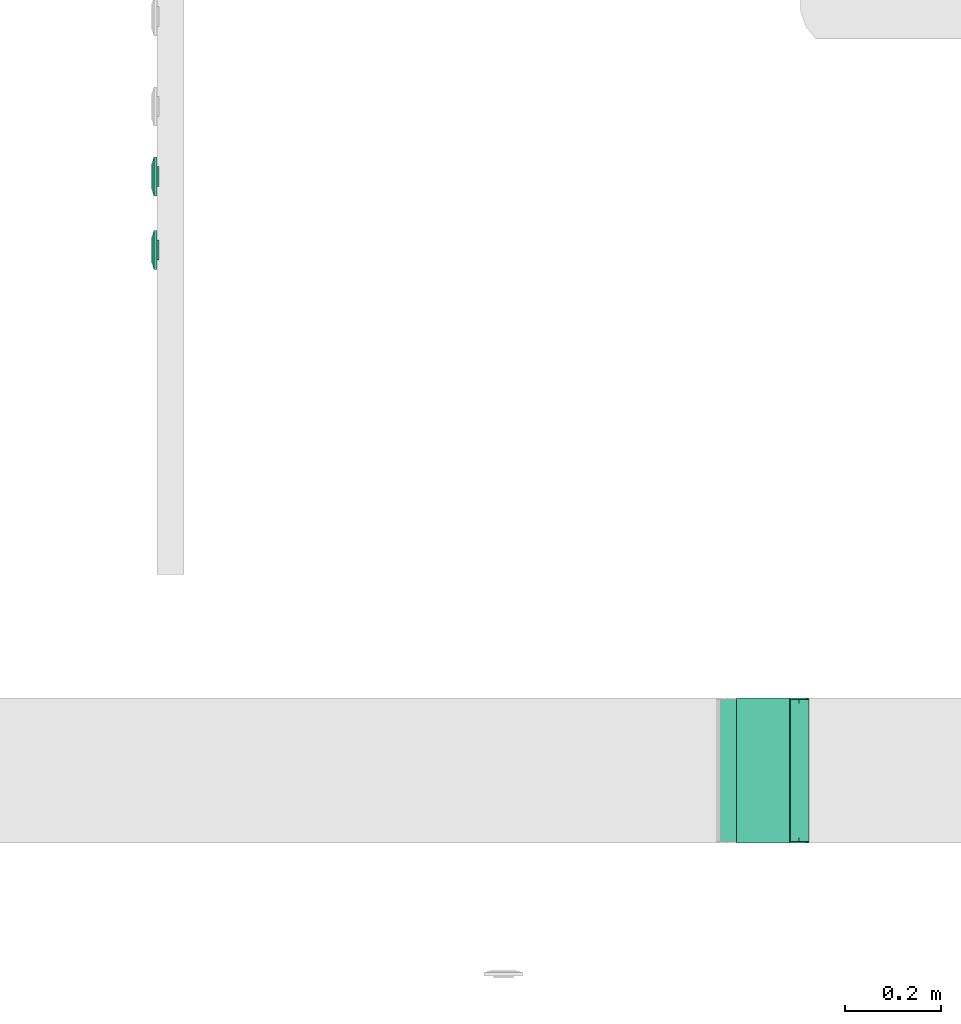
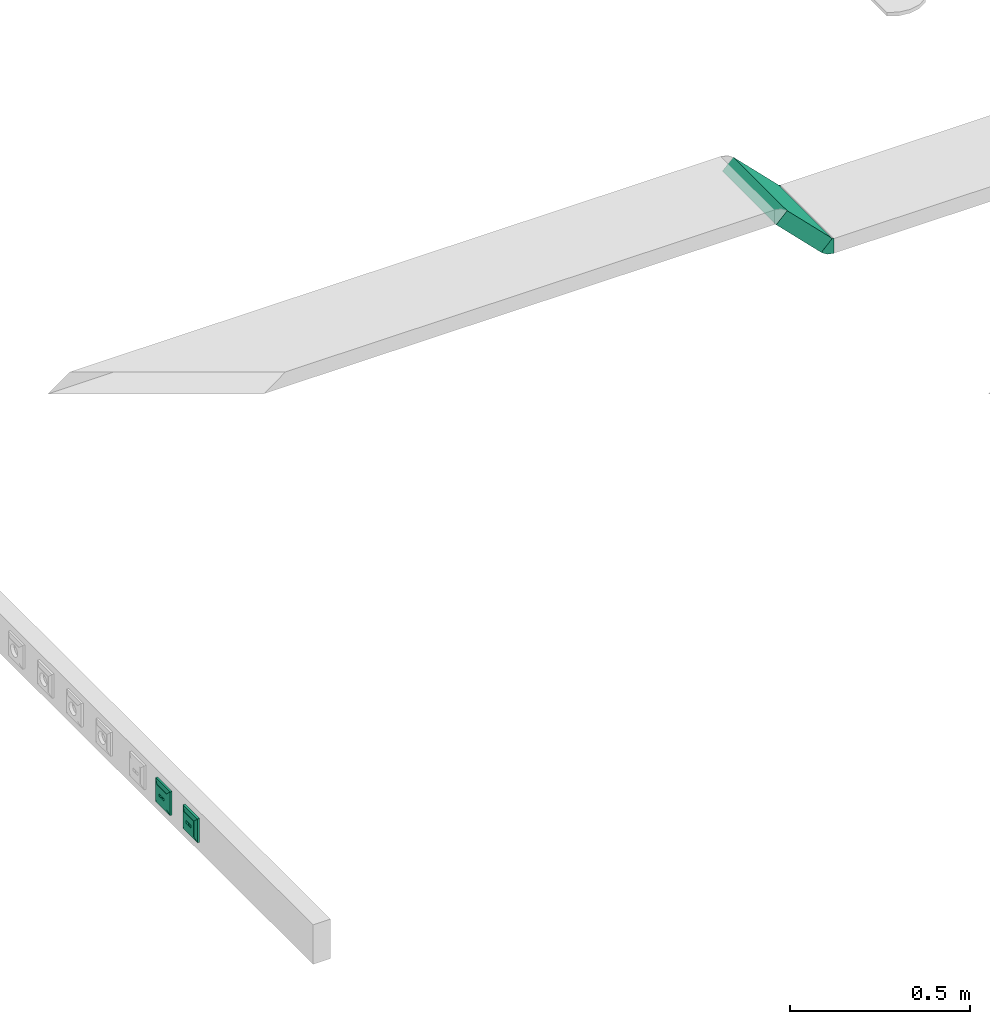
# One storey, part 34 of 166: 2 flow terminals, 1 flow fitting, 1 flow segment.
"""IFC2X3 building model written with IfcOpenShell, lengths in metres."""

from ifc_helpers import new_model, entity, si_unit, converted_unit, derived_unit, direction, frame, frame_2d, origin, place, context, subcontext, project, spatial, rectangle, extrude, faceted_brep, source, transform, mapped, type_object, type_shapes, element, save


model = new_model("IFC2X3")

# Units and contexts
model_context = context("Model", 3, precision=1e-05, world=origin(), true_north=direction((6.12303176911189e-17, 1.0)))
body_context = subcontext(model_context, "Body", "Model", "MODEL_VIEW")
ifc_project = project(units=[si_unit("LENGTHUNIT", "METRE"), si_unit("AREAUNIT", "SQUARE_METRE"), si_unit("VOLUMEUNIT", "CUBIC_METRE"), converted_unit("PLANEANGLEUNIT", "DEGREE", entity("IfcRatioMeasure", 0.0174532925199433), si_unit("PLANEANGLEUNIT", "RADIAN"), dimensions=[0, 0, 0, 0, 0, 0, 0]), si_unit("MASSUNIT", "GRAM", prefix="KILO"), derived_unit("MASSDENSITYUNIT", [(si_unit("MASSUNIT", "GRAM", prefix="KILO"), 1), (si_unit("LENGTHUNIT", "METRE"), -3)]), si_unit("TIMEUNIT", "SECOND"), si_unit("FREQUENCYUNIT", "HERTZ"), si_unit("THERMODYNAMICTEMPERATUREUNIT", "DEGREE_CELSIUS"), derived_unit("THERMALTRANSMITTANCEUNIT", [(si_unit("MASSUNIT", "GRAM", prefix="KILO"), 1), (si_unit("THERMODYNAMICTEMPERATUREUNIT", "KELVIN"), -1), (si_unit("TIMEUNIT", "SECOND"), -3)]), derived_unit("VOLUMETRICFLOWRATEUNIT", [(si_unit("LENGTHUNIT", "METRE"), 3), (si_unit("TIMEUNIT", "SECOND"), -1)]), si_unit("ELECTRICCURRENTUNIT", "AMPERE"), si_unit("ELECTRICVOLTAGEUNIT", "VOLT"), si_unit("POWERUNIT", "WATT"), si_unit("FORCEUNIT", "NEWTON"), si_unit("ILLUMINANCEUNIT", "LUX"), si_unit("LUMINOUSFLUXUNIT", "LUMEN"), si_unit("LUMINOUSINTENSITYUNIT", "CANDELA"), derived_unit("USERDEFINED", [(si_unit("MASSUNIT", "GRAM", prefix="KILO"), -1), (si_unit("LENGTHUNIT", "METRE"), -2), (si_unit("TIMEUNIT", "SECOND"), 3), (si_unit("LUMINOUSFLUXUNIT", "LUMEN"), 1)]), derived_unit("LINEARVELOCITYUNIT", [(si_unit("LENGTHUNIT", "METRE"), 1), (si_unit("TIMEUNIT", "SECOND"), -1)]), si_unit("PRESSUREUNIT", "PASCAL"), derived_unit("USERDEFINED", [(si_unit("LENGTHUNIT", "METRE"), -2), (si_unit("MASSUNIT", "GRAM", prefix="KILO"), 1), (si_unit("TIMEUNIT", "SECOND"), -2)])], contexts=[model_context])

# Site, building, storey
site_placement = place(None, origin())
site = spatial("IfcSite", under=ifc_project, at=site_placement, Name="Default", CompositionType="ELEMENT")
building_placement = place(site_placement, origin())
building = spatial("IfcBuilding", under=site, at=building_placement, CompositionType="ELEMENT")
storey_placement = place(building_placement, frame((0.0, 0.0, 4.27)))
storey = spatial("IfcBuildingStorey", under=building, at=storey_placement, Name="01", CompositionType="ELEMENT", Elevation=4.27)

# Flow terminals
electric_appliance_type = type_object("IfcElectricApplianceType", Name="RJ45 IP20", PredefinedType="NOTDEFINED")
shared_shape_1 = source(origin(), body_context, "Body", "Brep", [
    faceted_brep([(0.00200000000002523, 0.0, 0.00799999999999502), (0.00400000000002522, 0.0, 0.00799999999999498), (0.00500000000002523, 0.00199999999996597, 0.00799999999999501), (0.0110000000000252, 0.00199999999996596, 0.00799999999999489), (0.0120000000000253, 0.0, 0.00799999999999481), (0.0140000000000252, 0.0, 0.00799999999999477), (0.0140000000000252, 0.00399999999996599, 0.00799999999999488), (0.00200000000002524, 0.00399999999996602, 0.00799999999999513), (0.00200000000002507, 0.0, 0.0), (0.00200000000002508, 0.00399999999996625, 0.0), (0.0140000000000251, 0.00399999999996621, 0.0), (0.0140000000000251, 0.0, 0.0), (0.0120000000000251, 0.0, 0.0), (0.0110000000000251, 0.00199999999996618, 0.0), (0.00500000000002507, 0.0019999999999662, 0.0), (0.00400000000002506, 0.0, 0.0)], [[[0, 1, 2, 3, 4, 5, 6, 7]], [[8, 9, 10, 11, 12, 13, 14, 15]], [[1, 0, 8, 15]], [[2, 1, 15, 14]], [[3, 2, 14, 13]], [[4, 3, 13, 12]], [[5, 4, 12, 11]], [[6, 5, 11, 10]], [[7, 6, 10, 9]], [[0, 7, 9, 8]]]),
    faceted_brep([(-0.0139999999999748, 0.0, 0.00799999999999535), (-0.0119999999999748, 0.0, 0.00799999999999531), (-0.0109999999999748, 0.00199999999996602, 0.00799999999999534), (-0.00499999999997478, 0.00199999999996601, 0.00799999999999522), (-0.0039999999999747, 0.0, 0.00799999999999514), (-0.00199999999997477, 0.0, 0.0079999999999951), (-0.00199999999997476, 0.00399999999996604, 0.00799999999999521), (-0.0139999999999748, 0.00399999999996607, 0.00799999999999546), (-0.0139999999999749, 0.0, 0.0), (-0.0139999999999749, 0.00399999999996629, 0.0), (-0.00199999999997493, 0.00399999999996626, 0.0), (-0.00199999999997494, 0.0, 0.0), (-0.00399999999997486, 0.0, 0.0), (-0.00499999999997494, 0.00199999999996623, 0.0), (-0.0109999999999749, 0.00199999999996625, 0.0), (-0.0119999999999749, 0.0, 0.0)], [[[0, 1, 2, 3, 4, 5, 6, 7]], [[8, 9, 10, 11, 12, 13, 14, 15]], [[1, 0, 8, 15]], [[2, 1, 15, 14]], [[3, 2, 14, 13]], [[4, 3, 13, 12]], [[5, 4, 12, 11]], [[6, 5, 11, 10]], [[7, 6, 10, 9]], [[0, 7, 9, 8]]]),
    faceted_brep([(0.0140000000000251, 0.00399999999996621, 0.0), (0.00200000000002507, 0.00399999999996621, 0.0), (0.00200000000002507, -0.00350000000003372, 0.0), (0.0140000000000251, -0.00350000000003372, 0.0), (0.0140000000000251, 0.00399999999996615, 0.00199999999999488), (0.00200000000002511, 0.00399999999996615, 0.00199999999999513), (0.00200000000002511, -0.00393859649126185, 0.00199999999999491), (0.0140000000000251, -0.00393859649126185, 0.00199999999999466), (0.0210000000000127, 0.0209999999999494, 0.00199999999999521), (-0.0209999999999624, 0.0209999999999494, 0.00199999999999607), (-0.0209999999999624, -0.0210000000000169, 0.00199999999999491), (0.0210000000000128, -0.0210000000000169, 0.00199999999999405), (-0.0139999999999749, 0.0039999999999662, 0.00199999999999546), (-0.0019999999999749, 0.0039999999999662, 0.00199999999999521), (-0.00199999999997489, -0.0039385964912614, 0.00199999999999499), (-0.0139999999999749, -0.00393859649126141, 0.00199999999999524), (0.0210000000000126, 0.0209999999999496, -0.00460000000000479), (0.0210000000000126, -0.0210000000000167, -0.00460000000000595), (-0.0209999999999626, -0.0210000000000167, -0.00460000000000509), (-0.0209999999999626, 0.0209999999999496, -0.00460000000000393), (-0.00199999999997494, 0.00399999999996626, 0.0), (-0.0139999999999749, 0.00399999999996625, 0.0), (-0.0139999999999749, -0.00350000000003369, 0.0), (-0.00199999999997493, -0.00350000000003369, 0.0)], [[[0, 1, 2, 3]], [[1, 0, 4, 5]], [[2, 1, 5, 6]], [[3, 2, 6, 7]], [[0, 3, 7, 4]], [[5, 4, 7, 6], [8, 9, 10, 11], [12, 13, 14, 15]], [[16, 17, 18, 19]], [[9, 8, 16, 19]], [[10, 9, 19, 18]], [[11, 10, 18, 17]], [[8, 11, 17, 16]], [[20, 21, 22, 23]], [[21, 20, 13, 12]], [[22, 21, 12, 15]], [[23, 22, 15, 14]], [[20, 23, 14, 13]]], outer=[[True], [True], [True], [True], [True], [False, True, False], [True], [True], [True], [True], [True], [True], [True], [True], [True], [True]]),
    faceted_brep([(0.0270000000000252, 0.026999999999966, 0.0113999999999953), (-0.0269999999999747, 0.026999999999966, 0.0113999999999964), (-0.0269999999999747, -0.0270000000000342, 0.0113999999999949), (0.0270000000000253, -0.0270000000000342, 0.0113999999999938), (0.0020000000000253, 0.00399999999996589, 0.0113999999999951), (0.0140000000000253, 0.00399999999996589, 0.0113999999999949), (0.0140000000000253, -0.00600000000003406, 0.0113999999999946), (0.0020000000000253, -0.00600000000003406, 0.0113999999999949), (-0.0139999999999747, 0.00399999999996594, 0.0113999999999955), (-0.00199999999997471, 0.00399999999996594, 0.0113999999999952), (-0.00199999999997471, -0.0060000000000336, 0.0113999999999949), (-0.0139999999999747, -0.00600000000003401, 0.0113999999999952), (0.0270000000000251, 0.0269999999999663, 0.00199999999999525), (0.0270000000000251, -0.0270000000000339, 0.00199999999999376), (-0.0269999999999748, -0.0270000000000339, 0.00199999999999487), (-0.0269999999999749, 0.0269999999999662, 0.00199999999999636), (0.0140000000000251, 0.00399999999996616, 0.00199999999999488), (0.00200000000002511, 0.00399999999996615, 0.00199999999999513), (0.00200000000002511, -0.00393859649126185, 0.00199999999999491), (0.0140000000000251, -0.00393859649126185, 0.00199999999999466), (-0.00199999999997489, 0.0039999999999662, 0.00199999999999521), (-0.0139999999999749, 0.0039999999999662, 0.00199999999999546), (-0.0139999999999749, -0.0039385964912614, 0.00199999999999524), (-0.00199999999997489, -0.0039385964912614, 0.00199999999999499)], [[[0, 1, 2, 3], [4, 5, 6, 7], [8, 9, 10, 11]], [[12, 13, 14, 15], [16, 17, 18, 19], [20, 21, 22, 23]], [[1, 0, 12, 15]], [[2, 1, 15, 14]], [[3, 2, 14, 13]], [[0, 3, 13, 12]], [[4, 17, 16, 5]], [[17, 4, 7, 18]], [[18, 7, 6, 19]], [[5, 16, 19, 6]], [[8, 21, 20, 9]], [[21, 8, 11, 22]], [[22, 11, 10, 23]], [[9, 20, 23, 10]]]),
    faceted_brep([(0.027000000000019, 0.0269999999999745, 0.00659999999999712), (-0.0269999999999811, 0.0269999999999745, 0.00659999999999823), (-0.026999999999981, -0.0270000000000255, 0.00659999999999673), (0.027000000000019, -0.0270000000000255, 0.00659999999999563), (0.040350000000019, 0.0403499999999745, 0.00659999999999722), (0.040350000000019, -0.0403500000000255, 0.00659999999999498), (-0.0403499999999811, -0.0403500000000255, 0.00659999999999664), (-0.0403499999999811, 0.0403499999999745, 0.00659999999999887), (-0.026999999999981, 0.0269999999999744, 0.0103999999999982), (0.027000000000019, 0.0269999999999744, 0.0103999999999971), (-0.026999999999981, -0.0270000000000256, 0.0103999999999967), (0.027000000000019, -0.0270000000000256, 0.0103999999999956)], [[[0, 1, 2, 3], [4, 5, 6, 7]], [[4, 7, 8, 9]], [[7, 6, 10, 8]], [[6, 5, 11, 10]], [[5, 4, 9, 11]], [[0, 9, 8, 1]], [[1, 8, 10, 2]], [[2, 10, 11, 3]], [[9, 0, 3, 11]]], outer=[[False, True], [True], [True], [True], [True], [True], [True], [True], [True]]),
    faceted_brep([(0.040350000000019, 0.0403499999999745, 0.00659999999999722), (-0.0403499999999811, 0.0403499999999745, 0.00659999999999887), (-0.0403499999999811, -0.0403500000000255, 0.00659999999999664), (0.040350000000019, -0.0403500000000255, 0.00659999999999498), (-0.0269999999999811, 0.0269999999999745, 0.00659999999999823), (0.0270000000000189, 0.0269999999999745, 0.00659999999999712), (0.0270000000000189, -0.0270000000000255, 0.00659999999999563), (-0.0269999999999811, -0.0270000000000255, 0.00659999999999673), (0.0403500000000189, 0.0403499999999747, 0.0), (0.0403500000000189, -0.0403500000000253, 0.0), (-0.0403499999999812, -0.0403500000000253, 0.0), (-0.0403499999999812, 0.0403499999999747, 0.0), (0.0270000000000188, 0.0269999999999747, 0.0), (-0.0269999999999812, 0.0269999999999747, 0.0), (-0.0269999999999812, -0.0270000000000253, 0.0), (0.0270000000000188, -0.0270000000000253, 0.0)], [[[0, 1, 2, 3], [4, 5, 6, 7]], [[8, 9, 10, 11], [12, 13, 14, 15]], [[1, 0, 8, 11]], [[2, 1, 11, 10]], [[3, 2, 10, 9]], [[0, 3, 9, 8]], [[12, 5, 4, 13]], [[13, 4, 7, 14]], [[14, 7, 6, 15]], [[5, 12, 15, 6]]]),
])
type_shapes(electric_appliance_type, [shared_shape_1])
for number, where, z_axis, x_axis in (
    (1, (29.3537440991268, -186.856423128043, 4.70800000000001), (-1.0, 0.0, 0.0), (0.0, -1.0, 0.0)),
    (2, (29.3537440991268, -187.008423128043, 4.70800000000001), (-1.0, 0.0, 0.0), (0.0, -1.0, 0.0)),
):
    element("IfcFlowTerminal", number, at=place(building_placement, frame(where, z_axis=z_axis, x_axis=x_axis)), inside=storey, type_object=electric_appliance_type, Name="INT_Prise RJ45:RJ45 IP20", ObjectType="INT_Prise RJ45:RJ45 IP20", context=body_context, shape_type="MappedRepresentation", body=[
        mapped(shared_shape_1, transform((0.0, 0.0, 0.0), scale=1.0)),
    ])

# Flow segment
cable_carrier_segment_type = type_object("IfcCableCarrierSegmentType", Name="Cable Tray with Fittings:Chemins de câbles en treillis_Chemins de câbles en treillis", PredefinedType="NOTDEFINED")
flow_segment_placement = place(storey_placement, origin())
element("IfcFlowSegment", 3, at=flow_segment_placement, inside=storey, type_object=cable_carrier_segment_type, Name="Cable Tray with Fittings:Chemins de câbles en treillis_Chemins de câbles en treillis", ObjectType="Cable Tray with Fittings:Chemins de câbles en treillis_Chemins de câbles en treillis", context=body_context, shape_type="SweptSolid", body=[
    extrude(rectangle(XDim=0.205061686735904, YDim=0.0500000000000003, at=frame_2d((-1.14491749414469e-15, 1.91686944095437e-15), x_axis=(1.0, 0.0))), frame((30.6103679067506, -188.237883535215, 2.75297515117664), z_axis=(0.0, 1.0, 0.0), x_axis=(0.707106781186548, 0.0, -0.707106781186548)), (0.0, 0.0, 1.0), 0.300000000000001),
])

# Flow fitting
cable_carrier_fitting_type = type_object("IfcCableCarrierFittingType", Name="E_Bend_Vertical_Inside_CA_Generic_MEPcontent", PredefinedType="NOTDEFINED")
shared_shape_2 = source(origin(), body_context, "Body", "Brep", [
    faceted_brep([(-0.00886744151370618, 0.0264878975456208, 0.14746000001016), (-0.00886744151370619, 0.0264878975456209, 0.15), (0.0264878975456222, -0.00886744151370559, 0.15), (0.0264878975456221, -0.0088674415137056, 0.0), (0.0264878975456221, -0.00886744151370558, -0.15), (-0.00886744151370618, 0.0264878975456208, -0.15), (-0.00886744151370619, 0.0264878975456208, -0.14746000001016), (0.0246918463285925, -0.00707139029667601, -0.14746000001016), (0.0246918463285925, -0.00707139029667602, 0.0), (0.0246918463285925, -0.007071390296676, 0.14746000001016), (-0.0124595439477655, 0.025, -0.14746000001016), (-0.0124595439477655, 0.025, -0.15), (-0.0124595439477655, -0.025, -0.15), (-0.0124595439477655, -0.025, 0.0), (-0.0124595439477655, -0.025, 0.15), (-0.0124595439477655, 0.025, 0.15), (-0.0124595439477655, 0.025, 0.14746000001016), (-0.0124595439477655, -0.02246000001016, 0.14746000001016), (-0.0124595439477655, -0.02246000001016, 0.0), (-0.0124595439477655, -0.02246000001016, -0.14746000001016), (-0.00192044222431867, -0.0229036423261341, 0.15), (0.00861865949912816, -0.0208072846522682, 0.15), (0.0175532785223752, -0.0148373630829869, 0.15), (-0.0105155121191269, 0.0253866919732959, 0.15), (-0.0105155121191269, 0.0253866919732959, 0.14746000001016), (0.0161692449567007, -0.0127660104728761, 0.14746000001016), (0.00764664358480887, -0.0184606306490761, 0.14746000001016), (-0.00240645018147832, -0.0204603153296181, 0.14746000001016), (-0.00240645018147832, -0.0204603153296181, -0.14746000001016), (0.00764664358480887, -0.0184606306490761, -0.14746000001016), (0.0161692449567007, -0.0127660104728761, -0.14746000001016), (-0.0105155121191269, 0.0253866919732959, -0.14746000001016), (-0.0105155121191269, 0.0253866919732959, -0.15), (0.0175532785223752, -0.0148373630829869, -0.15), (0.00861865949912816, -0.0208072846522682, -0.15), (-0.00192044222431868, -0.0229036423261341, -0.15), (0.00352933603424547, -0.0226282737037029, 0.0), (0.0151733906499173, -0.0175669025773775, 0.0), (0.00279201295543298, -0.0201976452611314, 0.0), (0.0144110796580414, -0.0150688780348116, 0.0)], [[[0, 1, 2, 3, 4, 5, 6, 7, 8, 9]], [[10, 11, 12, 13, 14, 15, 16, 17, 18, 19]], [[15, 14, 20, 21, 22, 2, 1, 23]], [[24, 0, 9, 25, 26, 27, 17, 16]], [[10, 19, 28, 29, 30, 7, 6, 31]], [[32, 5, 4, 33, 34, 35, 12, 11]], [[35, 36, 13]], [[33, 3, 37]], [[34, 36, 35]], [[34, 37, 36]], [[37, 3, 22]], [[3, 33, 4]], [[2, 22, 3]], [[21, 20, 36]], [[37, 21, 36]], [[37, 34, 33]], [[20, 13, 36]], [[13, 20, 14]], [[12, 35, 13]], [[22, 21, 37]], [[31, 32, 11, 10]], [[15, 23, 24, 16]], [[6, 5, 32, 31]], [[1, 0, 24, 23]], [[18, 38, 28]], [[39, 8, 30]], [[28, 38, 29]], [[38, 39, 29]], [[25, 8, 39]], [[7, 30, 8]], [[8, 25, 9]], [[38, 27, 26]], [[38, 26, 39]], [[30, 29, 39]], [[38, 18, 27]], [[17, 27, 18]], [[18, 28, 19]], [[39, 26, 25]]]),
    faceted_brep([(-0.00886744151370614, 0.0264878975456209, 0.15), (-0.00886744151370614, 0.0264878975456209, 0.14746000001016), (0.0246918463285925, -0.00707139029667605, 0.14746000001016), (0.0246918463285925, -0.00707139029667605, -0.14746000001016), (-0.00886744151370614, 0.0264878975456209, -0.14746000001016), (-0.00886744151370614, 0.0264878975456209, -0.15), (0.0264878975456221, -0.00886744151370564, -0.15), (0.0264878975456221, -0.00886744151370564, 0.15), (-0.00816033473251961, 0.0271950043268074, 0.15), (0.0271950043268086, -0.00816033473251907, 0.15), (0.0271950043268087, -0.00816033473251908, -0.15), (-0.00816033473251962, 0.0271950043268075, -0.15), (-0.00816033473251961, 0.0271950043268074, -0.14746000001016), (0.025398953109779, -0.00636428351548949, -0.14746000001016), (0.025398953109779, -0.00636428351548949, 0.14746000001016), (-0.00816033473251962, 0.0271950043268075, 0.14746000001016)], [[[0, 1, 2, 3, 4, 5, 6, 7]], [[8, 9, 10, 11, 12, 13, 14, 15]], [[6, 5, 11, 10]], [[4, 3, 13, 12]], [[2, 1, 15, 14]], [[0, 7, 9, 8]], [[1, 0, 8, 15]], [[3, 2, 14, 13]], [[5, 4, 12, 11]], [[7, 6, 10, 9]]]),
    faceted_brep([(-0.0124595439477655, 0.025, 0.15), (-0.0124595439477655, -0.025, 0.15), (-0.0124595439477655, -0.025, -0.15), (-0.0124595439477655, 0.025, -0.15), (-0.0124595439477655, 0.025, -0.14746000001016), (-0.0124595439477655, -0.02246000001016, -0.14746000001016), (-0.0124595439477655, -0.02246000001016, 0.14746000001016), (-0.0124595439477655, 0.025, 0.14746000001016), (-0.0134595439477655, 0.025, 0.15), (-0.0134595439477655, 0.025, 0.14746000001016), (-0.0134595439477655, -0.02246000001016, 0.14746000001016), (-0.0134595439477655, -0.02246000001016, -0.14746000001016), (-0.0134595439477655, 0.025, -0.14746000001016), (-0.0134595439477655, 0.025, -0.15), (-0.0134595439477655, -0.025, -0.15), (-0.0134595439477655, -0.025, 0.15)], [[[0, 1, 2, 3, 4, 5, 6, 7]], [[8, 9, 10, 11, 12, 13, 14, 15]], [[1, 0, 8, 15]], [[7, 6, 10, 9]], [[5, 4, 12, 11]], [[3, 2, 14, 13]], [[2, 1, 15, 14]], [[4, 3, 13, 12]], [[6, 5, 11, 10]], [[0, 7, 9, 8]]]),
])
type_shapes(cable_carrier_fitting_type, [shared_shape_2])
flow_fitting_placement = place(storey_placement, frame((30.692385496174, -188.087883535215, 2.67095756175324), z_axis=(0.0, 1.0, 0.0), x_axis=(-1.0, 0.0, 0.0)))
element("IfcFlowFitting", 4, at=flow_fitting_placement, inside=storey, type_object=cable_carrier_fitting_type, Name="E_Bend_Vertical_Inside_CA_Generic_MEPcontent:E_Bend_Vertical_Inside_CA_Generic_MEPcontent", ObjectType="E_Bend_Vertical_Inside_CA_Generic_MEPcontent:E_Bend_Vertical_Inside_CA_Generic_MEPcontent", context=body_context, shape_type="MappedRepresentation", body=[
    mapped(shared_shape_2, transform((0.0, 0.0, 0.0), scale=1.0)),
])

save(model, "model.ifc")
